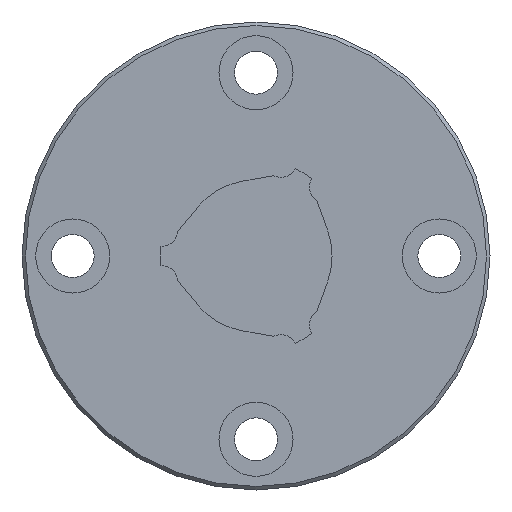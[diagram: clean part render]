
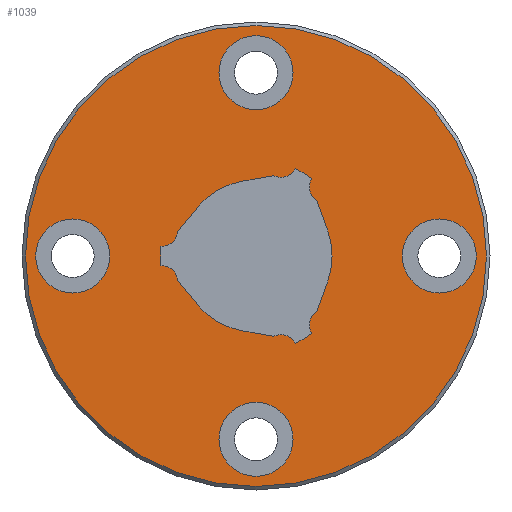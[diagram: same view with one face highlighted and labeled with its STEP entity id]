
A CAD part, left-side view. The second image highlights one B-rep face of the part: STEP entity #1039.
In plain terms, the highlighted planar face has unit normal (-1, 0, 0).
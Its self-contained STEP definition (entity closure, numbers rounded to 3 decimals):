
#45=PLANE('',#1156);
#91=LINE('',#1728,#151);
#92=LINE('',#1737,#152);
#93=LINE('',#1741,#153);
#94=LINE('',#1749,#154);
#95=LINE('',#1753,#155);
#96=LINE('',#1761,#156);
#151=VECTOR('',#1389,1000.);
#152=VECTOR('',#1396,1000.);
#153=VECTOR('',#1399,1000.);
#154=VECTOR('',#1406,1000.);
#155=VECTOR('',#1409,1000.);
#156=VECTOR('',#1416,1000.);
#289=ORIENTED_EDGE('',*,*,#513,.F.);
#290=ORIENTED_EDGE('',*,*,#514,.F.);
#291=ORIENTED_EDGE('',*,*,#515,.T.);
#292=ORIENTED_EDGE('',*,*,#516,.T.);
#293=ORIENTED_EDGE('',*,*,#517,.T.);
#294=ORIENTED_EDGE('',*,*,#518,.T.);
#295=ORIENTED_EDGE('',*,*,#519,.F.);
#296=ORIENTED_EDGE('',*,*,#520,.T.);
#297=ORIENTED_EDGE('',*,*,#521,.F.);
#298=ORIENTED_EDGE('',*,*,#522,.T.);
#299=ORIENTED_EDGE('',*,*,#523,.T.);
#300=ORIENTED_EDGE('',*,*,#524,.T.);
#301=ORIENTED_EDGE('',*,*,#525,.F.);
#302=ORIENTED_EDGE('',*,*,#526,.T.);
#303=ORIENTED_EDGE('',*,*,#527,.F.);
#304=ORIENTED_EDGE('',*,*,#528,.T.);
#305=ORIENTED_EDGE('',*,*,#529,.T.);
#306=ORIENTED_EDGE('',*,*,#530,.T.);
#307=ORIENTED_EDGE('',*,*,#531,.F.);
#308=ORIENTED_EDGE('',*,*,#532,.T.);
#309=ORIENTED_EDGE('',*,*,#533,.F.);
#310=ORIENTED_EDGE('',*,*,#534,.T.);
#311=ORIENTED_EDGE('',*,*,#535,.T.);
#513=EDGE_CURVE('',#634,#634,#725,.T.);
#514=EDGE_CURVE('',#635,#635,#726,.F.);
#515=EDGE_CURVE('',#636,#636,#727,.T.);
#516=EDGE_CURVE('',#637,#637,#728,.T.);
#517=EDGE_CURVE('',#638,#638,#729,.T.);
#518=EDGE_CURVE('',#639,#640,#91,.T.);
#519=EDGE_CURVE('',#641,#640,#730,.T.);
#520=EDGE_CURVE('',#641,#642,#731,.T.);
#521=EDGE_CURVE('',#643,#642,#732,.T.);
#522=EDGE_CURVE('',#643,#644,#92,.T.);
#523=EDGE_CURVE('',#644,#645,#733,.T.);
#524=EDGE_CURVE('',#645,#646,#93,.T.);
#525=EDGE_CURVE('',#647,#646,#734,.T.);
#526=EDGE_CURVE('',#647,#648,#735,.T.);
#527=EDGE_CURVE('',#649,#648,#736,.T.);
#528=EDGE_CURVE('',#649,#650,#94,.T.);
#529=EDGE_CURVE('',#650,#651,#737,.T.);
#530=EDGE_CURVE('',#651,#652,#95,.T.);
#531=EDGE_CURVE('',#653,#652,#738,.T.);
#532=EDGE_CURVE('',#653,#654,#739,.T.);
#533=EDGE_CURVE('',#655,#654,#740,.T.);
#534=EDGE_CURVE('',#655,#656,#96,.T.);
#535=EDGE_CURVE('',#656,#639,#741,.T.);
#634=VERTEX_POINT('',#1719);
#635=VERTEX_POINT('',#1721);
#636=VERTEX_POINT('',#1723);
#637=VERTEX_POINT('',#1725);
#638=VERTEX_POINT('',#1727);
#639=VERTEX_POINT('',#1729);
#640=VERTEX_POINT('',#1730);
#641=VERTEX_POINT('',#1732);
#642=VERTEX_POINT('',#1734);
#643=VERTEX_POINT('',#1736);
#644=VERTEX_POINT('',#1738);
#645=VERTEX_POINT('',#1740);
#646=VERTEX_POINT('',#1742);
#647=VERTEX_POINT('',#1744);
#648=VERTEX_POINT('',#1746);
#649=VERTEX_POINT('',#1748);
#650=VERTEX_POINT('',#1750);
#651=VERTEX_POINT('',#1752);
#652=VERTEX_POINT('',#1754);
#653=VERTEX_POINT('',#1756);
#654=VERTEX_POINT('',#1758);
#655=VERTEX_POINT('',#1760);
#656=VERTEX_POINT('',#1762);
#725=CIRCLE('',#1157,29.55);
#726=CIRCLE('',#1158,4.75);
#727=CIRCLE('',#1159,4.75);
#728=CIRCLE('',#1160,4.75);
#729=CIRCLE('',#1161,4.75);
#730=CIRCLE('',#1162,2.06);
#731=CIRCLE('',#1163,12.25);
#732=CIRCLE('',#1164,2.06);
#733=CIRCLE('',#1165,9.75);
#734=CIRCLE('',#1166,2.06);
#735=CIRCLE('',#1167,12.25);
#736=CIRCLE('',#1168,2.06);
#737=CIRCLE('',#1169,9.75);
#738=CIRCLE('',#1170,2.06);
#739=CIRCLE('',#1171,12.25);
#740=CIRCLE('',#1172,2.06);
#741=CIRCLE('',#1173,9.75);
#797=EDGE_LOOP('',(#289));
#798=EDGE_LOOP('',(#290));
#799=EDGE_LOOP('',(#291));
#800=EDGE_LOOP('',(#292));
#801=EDGE_LOOP('',(#293));
#802=EDGE_LOOP('',(#294,#295,#296,#297,#298,#299,#300,#301,#302,#303,#304,
#305,#306,#307,#308,#309,#310,#311));
#899=FACE_BOUND('',#797,.T.);
#900=FACE_BOUND('',#798,.T.);
#901=FACE_BOUND('',#799,.T.);
#902=FACE_BOUND('',#800,.T.);
#903=FACE_BOUND('',#801,.T.);
#904=FACE_BOUND('',#802,.T.);
#1039=ADVANCED_FACE('',(#899,#900,#901,#902,#903,#904),#45,.F.);
#1156=AXIS2_PLACEMENT_3D('',#1717,#1377,#1378);
#1157=AXIS2_PLACEMENT_3D('',#1718,#1379,#1380);
#1158=AXIS2_PLACEMENT_3D('',#1720,#1381,#1382);
#1159=AXIS2_PLACEMENT_3D('',#1722,#1383,#1384);
#1160=AXIS2_PLACEMENT_3D('',#1724,#1385,#1386);
#1161=AXIS2_PLACEMENT_3D('',#1726,#1387,#1388);
#1162=AXIS2_PLACEMENT_3D('',#1731,#1390,#1391);
#1163=AXIS2_PLACEMENT_3D('',#1733,#1392,#1393);
#1164=AXIS2_PLACEMENT_3D('',#1735,#1394,#1395);
#1165=AXIS2_PLACEMENT_3D('',#1739,#1397,#1398);
#1166=AXIS2_PLACEMENT_3D('',#1743,#1400,#1401);
#1167=AXIS2_PLACEMENT_3D('',#1745,#1402,#1403);
#1168=AXIS2_PLACEMENT_3D('',#1747,#1404,#1405);
#1169=AXIS2_PLACEMENT_3D('',#1751,#1407,#1408);
#1170=AXIS2_PLACEMENT_3D('',#1755,#1410,#1411);
#1171=AXIS2_PLACEMENT_3D('',#1757,#1412,#1413);
#1172=AXIS2_PLACEMENT_3D('',#1759,#1414,#1415);
#1173=AXIS2_PLACEMENT_3D('',#1763,#1417,#1418);
#1377=DIRECTION('',(1.,0.,0.));
#1378=DIRECTION('',(0.,1.,0.));
#1379=DIRECTION('',(1.,0.,0.));
#1380=DIRECTION('',(0.,1.,0.));
#1381=DIRECTION('',(1.,0.,0.));
#1382=DIRECTION('',(0.,1.,0.));
#1383=DIRECTION('',(1.,0.,0.));
#1384=DIRECTION('',(0.,0.,-1.));
#1385=DIRECTION('',(1.,0.,0.));
#1386=DIRECTION('',(0.,0.,-1.));
#1387=DIRECTION('',(1.,0.,0.));
#1388=DIRECTION('',(0.,0.,-1.));
#1389=DIRECTION('',(0.,-0.985,0.174));
#1390=DIRECTION('',(1.,0.,0.));
#1391=DIRECTION('',(0.,0.,-1.));
#1392=DIRECTION('',(1.,0.,0.));
#1393=DIRECTION('',(0.,0.,-1.));
#1394=DIRECTION('',(1.,0.,0.));
#1395=DIRECTION('',(0.,0.,-1.));
#1396=DIRECTION('',(0.,-0.342,-0.94));
#1397=DIRECTION('',(1.,0.,0.));
#1398=DIRECTION('',(0.,0.,-1.));
#1399=DIRECTION('',(0.,0.342,-0.94));
#1400=DIRECTION('',(1.,0.,0.));
#1401=DIRECTION('',(0.,0.,-1.));
#1402=DIRECTION('',(1.,0.,0.));
#1403=DIRECTION('',(0.,0.,-1.));
#1404=DIRECTION('',(1.,0.,0.));
#1405=DIRECTION('',(0.,0.,-1.));
#1406=DIRECTION('',(0.,0.985,0.174));
#1407=DIRECTION('',(1.,0.,0.));
#1408=DIRECTION('',(0.,0.,-1.));
#1409=DIRECTION('',(0.,0.643,0.766));
#1410=DIRECTION('',(1.,0.,0.));
#1411=DIRECTION('',(0.,0.,-1.));
#1412=DIRECTION('',(1.,0.,0.));
#1413=DIRECTION('',(0.,0.,-1.));
#1414=DIRECTION('',(1.,0.,0.));
#1415=DIRECTION('',(0.,0.,-1.));
#1416=DIRECTION('',(0.,-0.643,0.766));
#1417=DIRECTION('',(1.,0.,0.));
#1418=DIRECTION('',(0.,0.,-1.));
#1717=CARTESIAN_POINT('',(0.,0.,0.));
#1718=CARTESIAN_POINT('',(0.,0.,0.));
#1719=CARTESIAN_POINT('',(0.,29.55,0.));
#1720=CARTESIAN_POINT('',(0.,23.5,0.));
#1721=CARTESIAN_POINT('',(0.,28.25,0.));
#1722=CARTESIAN_POINT('',(0.,0.,23.5));
#1723=CARTESIAN_POINT('',(0.,0.,18.75));
#1724=CARTESIAN_POINT('',(0.,-23.5,0.));
#1725=CARTESIAN_POINT('',(0.,-23.5,-4.75));
#1726=CARTESIAN_POINT('',(0.,0.,-23.5));
#1727=CARTESIAN_POINT('',(0.,0.,-28.25));
#1728=CARTESIAN_POINT('',(0.,1.693,9.602));
#1729=CARTESIAN_POINT('',(0.,1.693,9.602));
#1730=CARTESIAN_POINT('',(0.,-2.269,10.301));
#1731=CARTESIAN_POINT('',(0.,-3.198,12.139));
#1732=CARTESIAN_POINT('',(0.,-5.018,11.175));
#1733=CARTESIAN_POINT('',(0.,0.,0.));
#1734=CARTESIAN_POINT('',(0.,-7.169,9.933));
#1735=CARTESIAN_POINT('',(0.,-8.914,8.839));
#1736=CARTESIAN_POINT('',(0.,-7.786,7.115));
#1737=CARTESIAN_POINT('',(0.,-7.786,7.115));
#1738=CARTESIAN_POINT('',(0.,-9.162,3.335));
#1739=CARTESIAN_POINT('',(0.,0.,0.));
#1740=CARTESIAN_POINT('',(0.,-9.162,-3.335));
#1741=CARTESIAN_POINT('',(0.,-9.162,-3.335));
#1742=CARTESIAN_POINT('',(0.,-7.786,-7.115));
#1743=CARTESIAN_POINT('',(0.,-8.914,-8.839));
#1744=CARTESIAN_POINT('',(0.,-7.169,-9.933));
#1745=CARTESIAN_POINT('',(0.,0.,0.));
#1746=CARTESIAN_POINT('',(0.,-5.018,-11.175));
#1747=CARTESIAN_POINT('',(0.,-3.198,-12.139));
#1748=CARTESIAN_POINT('',(0.,-2.269,-10.301));
#1749=CARTESIAN_POINT('',(0.,-2.269,-10.301));
#1750=CARTESIAN_POINT('',(0.,1.693,-9.602));
#1751=CARTESIAN_POINT('',(0.,0.,0.));
#1752=CARTESIAN_POINT('',(0.,7.469,-6.267));
#1753=CARTESIAN_POINT('',(0.,7.469,-6.267));
#1754=CARTESIAN_POINT('',(0.,10.055,-3.185));
#1755=CARTESIAN_POINT('',(0.,12.112,-3.3));
#1756=CARTESIAN_POINT('',(0.,12.187,-1.242));
#1757=CARTESIAN_POINT('',(0.,0.,0.));
#1758=CARTESIAN_POINT('',(0.,12.187,1.242));
#1759=CARTESIAN_POINT('',(0.,12.112,3.3));
#1760=CARTESIAN_POINT('',(0.,10.055,3.185));
#1761=CARTESIAN_POINT('',(0.,10.055,3.185));
#1762=CARTESIAN_POINT('',(0.,7.469,6.267));
#1763=CARTESIAN_POINT('',(0.,0.,0.));
